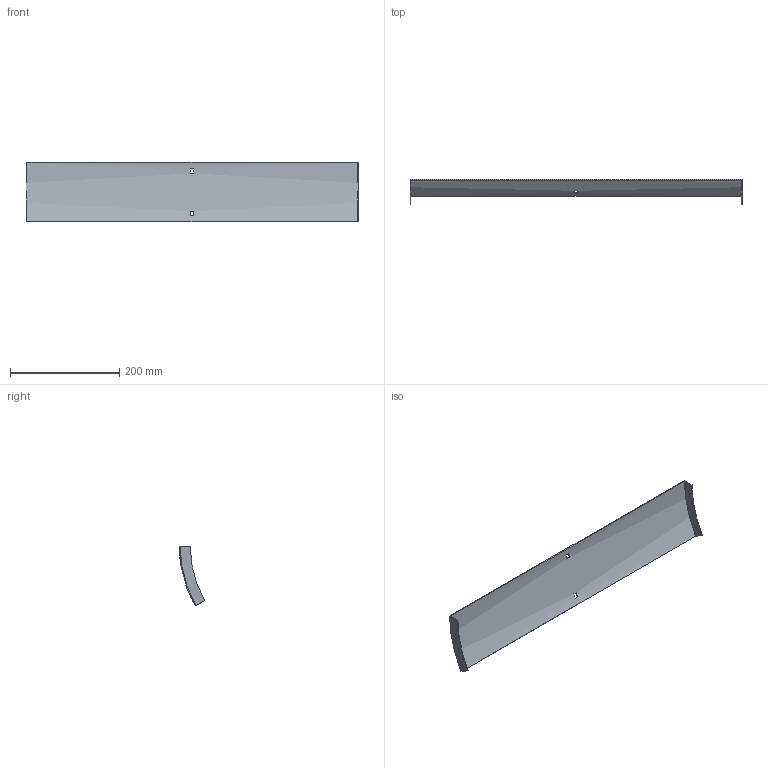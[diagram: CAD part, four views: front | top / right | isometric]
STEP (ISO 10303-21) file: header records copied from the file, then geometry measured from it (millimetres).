
FILE_DESCRIPTION (( 'STEP AP214' ), '1' );
FILE_NAME ('35N1J600.step', '2025-02-21T09:11:40', ( '' ), ( '' ), 'SwSTEP 2.0', 'SolidWorks 2023', '' );
FILE_SCHEMA (( 'AUTOMOTIVE_DESIGN' ));
Length unit declared in the file: millimetre
Products named in the file (1): 35N1J600
Bounding box: 607 x 46.66 x 109.5 mm (x, y, z)
Volume: 109923.5 mm3; surface area: 148903.7 mm2
Topology: 1 solids, 1 shells, 18 faces, 48 edges, 32 vertices
Faces by surface type: plane 14, cylinder 4
Entity records: 599 total; most frequent: DIRECTION 102, CARTESIAN_POINT 99, ORIENTED_EDGE 96, EDGE_CURVE 48, AXIS2_PLACEMENT_3D 35, VECTOR 32, LINE 32, VERTEX_POINT 32
